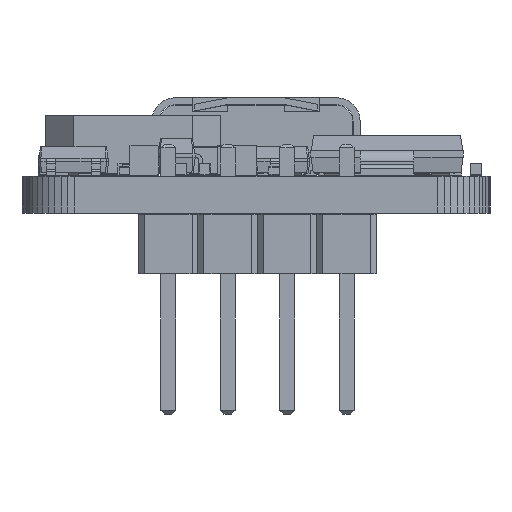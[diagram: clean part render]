
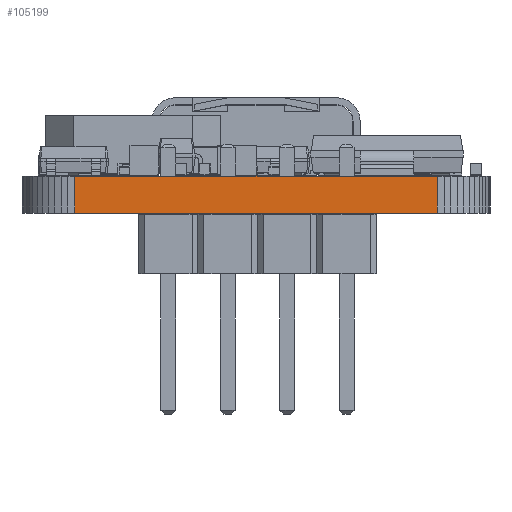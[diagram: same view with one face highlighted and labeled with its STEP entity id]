
A CAD part, left-side view. The second image highlights one B-rep face of the part: STEP entity #105199.
In plain terms, the highlighted planar face has unit normal (-1, 0, 0).
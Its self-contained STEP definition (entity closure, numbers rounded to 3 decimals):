
#97067 = PLANE('',#97068);
#97068 = AXIS2_PLACEMENT_3D('',#97069,#97070,#97071);
#97069 = CARTESIAN_POINT('',(0.,0.,
    1.58));
#97070 = DIRECTION('',(-0.,-0.,-1.));
#97071 = DIRECTION('',(-1.,0.,0.));
#97121 = PLANE('',#97122);
#97122 = AXIS2_PLACEMENT_3D('',#97123,#97124,#97125);
#97123 = CARTESIAN_POINT('',(0.,0.,0.)
  );
#97124 = DIRECTION('',(-0.,-0.,-1.));
#97125 = DIRECTION('',(-1.,0.,0.));
#98238 = VERTEX_POINT('',#98239);
#98239 = CARTESIAN_POINT('',(-30.,-7.75,0.));
#98253 = PLANE('',#98254);
#98254 = AXIS2_PLACEMENT_3D('',#98255,#98256,#98257);
#98255 = CARTESIAN_POINT('',(-29.981,-8.044,0.));
#98256 = DIRECTION('',(-0.998,-0.065,0.));
#98257 = DIRECTION('',(-0.065,0.998,0.));
#98265 = EDGE_CURVE('',#98238,#98266,#98268,.T.);
#98266 = VERTEX_POINT('',#98267);
#98267 = CARTESIAN_POINT('',(-30.,7.75,0.));
#98268 = SURFACE_CURVE('',#98269,(#98273,#98280),.PCURVE_S1.);
#98269 = LINE('',#98270,#98271);
#98270 = CARTESIAN_POINT('',(-30.,-7.75,0.));
#98271 = VECTOR('',#98272,1.);
#98272 = DIRECTION('',(0.,1.,0.));
#98273 = PCURVE('',#97121,#98274);
#98274 = DEFINITIONAL_REPRESENTATION('',(#98275),#98279);
#98275 = LINE('',#98276,#98277);
#98276 = CARTESIAN_POINT('',(30.,-7.75));
#98277 = VECTOR('',#98278,1.);
#98278 = DIRECTION('',(0.,1.));
#98279 = ( GEOMETRIC_REPRESENTATION_CONTEXT(2) 
PARAMETRIC_REPRESENTATION_CONTEXT() REPRESENTATION_CONTEXT('2D SPACE',''
  ) );
#98280 = PCURVE('',#98281,#98286);
#98281 = PLANE('',#98282);
#98282 = AXIS2_PLACEMENT_3D('',#98283,#98284,#98285);
#98283 = CARTESIAN_POINT('',(-30.,-7.75,0.));
#98284 = DIRECTION('',(-1.,0.,0.));
#98285 = DIRECTION('',(0.,1.,0.));
#98286 = DEFINITIONAL_REPRESENTATION('',(#98287),#98291);
#98287 = LINE('',#98288,#98289);
#98288 = CARTESIAN_POINT('',(0.,0.));
#98289 = VECTOR('',#98290,1.);
#98290 = DIRECTION('',(1.,0.));
#98291 = ( GEOMETRIC_REPRESENTATION_CONTEXT(2) 
PARAMETRIC_REPRESENTATION_CONTEXT() REPRESENTATION_CONTEXT('2D SPACE',''
  ) );
#98309 = PLANE('',#98310);
#98310 = AXIS2_PLACEMENT_3D('',#98311,#98312,#98313);
#98311 = CARTESIAN_POINT('',(-30.,7.75,0.));
#98312 = DIRECTION('',(-0.998,0.065,0.));
#98313 = DIRECTION('',(0.065,0.998,0.));
#102107 = VERTEX_POINT('',#102108);
#102108 = CARTESIAN_POINT('',(-30.,-7.75,1.58));
#102129 = EDGE_CURVE('',#102107,#102130,#102132,.T.);
#102130 = VERTEX_POINT('',#102131);
#102131 = CARTESIAN_POINT('',(-30.,7.75,1.58));
#102132 = SURFACE_CURVE('',#102133,(#102137,#102144),.PCURVE_S1.);
#102133 = LINE('',#102134,#102135);
#102134 = CARTESIAN_POINT('',(-30.,-7.75,1.58));
#102135 = VECTOR('',#102136,1.);
#102136 = DIRECTION('',(0.,1.,0.));
#102137 = PCURVE('',#97067,#102138);
#102138 = DEFINITIONAL_REPRESENTATION('',(#102139),#102143);
#102139 = LINE('',#102140,#102141);
#102140 = CARTESIAN_POINT('',(30.,-7.75));
#102141 = VECTOR('',#102142,1.);
#102142 = DIRECTION('',(0.,1.));
#102143 = ( GEOMETRIC_REPRESENTATION_CONTEXT(2) 
PARAMETRIC_REPRESENTATION_CONTEXT() REPRESENTATION_CONTEXT('2D SPACE',''
  ) );
#102144 = PCURVE('',#98281,#102145);
#102145 = DEFINITIONAL_REPRESENTATION('',(#102146),#102150);
#102146 = LINE('',#102147,#102148);
#102147 = CARTESIAN_POINT('',(0.,-1.58));
#102148 = VECTOR('',#102149,1.);
#102149 = DIRECTION('',(1.,0.));
#102150 = ( GEOMETRIC_REPRESENTATION_CONTEXT(2) 
PARAMETRIC_REPRESENTATION_CONTEXT() REPRESENTATION_CONTEXT('2D SPACE',''
  ) );
#105149 = EDGE_CURVE('',#98266,#102130,#105150,.T.);
#105150 = SURFACE_CURVE('',#105151,(#105155,#105162),.PCURVE_S1.);
#105151 = LINE('',#105152,#105153);
#105152 = CARTESIAN_POINT('',(-30.,7.75,0.));
#105153 = VECTOR('',#105154,1.);
#105154 = DIRECTION('',(0.,0.,1.));
#105155 = PCURVE('',#98309,#105156);
#105156 = DEFINITIONAL_REPRESENTATION('',(#105157),#105161);
#105157 = LINE('',#105158,#105159);
#105158 = CARTESIAN_POINT('',(0.,0.));
#105159 = VECTOR('',#105160,1.);
#105160 = DIRECTION('',(0.,-1.));
#105161 = ( GEOMETRIC_REPRESENTATION_CONTEXT(2) 
PARAMETRIC_REPRESENTATION_CONTEXT() REPRESENTATION_CONTEXT('2D SPACE',''
  ) );
#105162 = PCURVE('',#98281,#105163);
#105163 = DEFINITIONAL_REPRESENTATION('',(#105164),#105168);
#105164 = LINE('',#105165,#105166);
#105165 = CARTESIAN_POINT('',(15.5,0.));
#105166 = VECTOR('',#105167,1.);
#105167 = DIRECTION('',(0.,-1.));
#105168 = ( GEOMETRIC_REPRESENTATION_CONTEXT(2) 
PARAMETRIC_REPRESENTATION_CONTEXT() REPRESENTATION_CONTEXT('2D SPACE',''
  ) );
#105199 = ADVANCED_FACE('',(#105200),#98281,.T.);
#105200 = FACE_BOUND('',#105201,.T.);
#105201 = EDGE_LOOP('',(#105202,#105223,#105224,#105225));
#105202 = ORIENTED_EDGE('',*,*,#105203,.T.);
#105203 = EDGE_CURVE('',#98238,#102107,#105204,.T.);
#105204 = SURFACE_CURVE('',#105205,(#105209,#105216),.PCURVE_S1.);
#105205 = LINE('',#105206,#105207);
#105206 = CARTESIAN_POINT('',(-30.,-7.75,0.));
#105207 = VECTOR('',#105208,1.);
#105208 = DIRECTION('',(0.,0.,1.));
#105209 = PCURVE('',#98281,#105210);
#105210 = DEFINITIONAL_REPRESENTATION('',(#105211),#105215);
#105211 = LINE('',#105212,#105213);
#105212 = CARTESIAN_POINT('',(0.,0.));
#105213 = VECTOR('',#105214,1.);
#105214 = DIRECTION('',(0.,-1.));
#105215 = ( GEOMETRIC_REPRESENTATION_CONTEXT(2) 
PARAMETRIC_REPRESENTATION_CONTEXT() REPRESENTATION_CONTEXT('2D SPACE',''
  ) );
#105216 = PCURVE('',#98253,#105217);
#105217 = DEFINITIONAL_REPRESENTATION('',(#105218),#105222);
#105218 = LINE('',#105219,#105220);
#105219 = CARTESIAN_POINT('',(0.294,0.));
#105220 = VECTOR('',#105221,1.);
#105221 = DIRECTION('',(0.,-1.));
#105222 = ( GEOMETRIC_REPRESENTATION_CONTEXT(2) 
PARAMETRIC_REPRESENTATION_CONTEXT() REPRESENTATION_CONTEXT('2D SPACE',''
  ) );
#105223 = ORIENTED_EDGE('',*,*,#102129,.T.);
#105224 = ORIENTED_EDGE('',*,*,#105149,.F.);
#105225 = ORIENTED_EDGE('',*,*,#98265,.F.);
